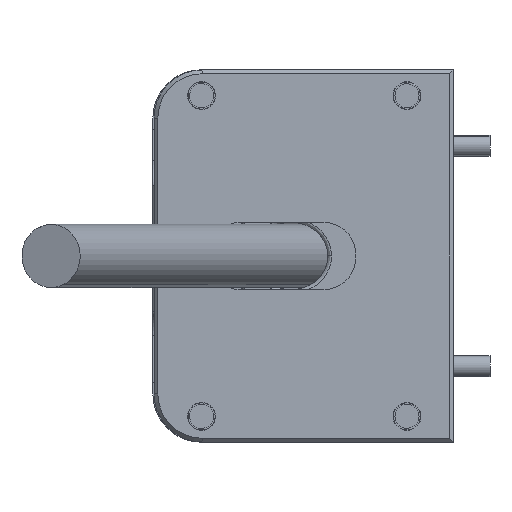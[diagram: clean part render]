
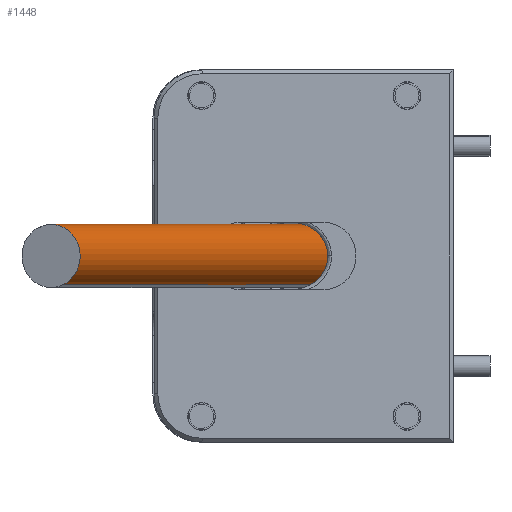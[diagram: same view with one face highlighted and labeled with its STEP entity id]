
A CAD part, front view. The second image highlights one B-rep face of the part: STEP entity #1448.
In plain terms, the highlighted cylindrical face has radius 6.337 mm (diameter 12.675 mm), a partial arc.
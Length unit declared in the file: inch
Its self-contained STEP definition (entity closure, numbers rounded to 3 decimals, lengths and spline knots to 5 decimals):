
#1130 = EDGE_LOOP ( 'NONE', ( #12207, #1578, #16598, #6552 ) ) ;
#1176 = DIRECTION ( 'NONE',  ( 0., -0.391, 0.921 ) ) ;
#1448 = ADVANCED_FACE ( 'NONE', ( #3574 ), #5979, .T. ) ;
#1578 = ORIENTED_EDGE ( 'NONE', *, *, #5318, .F. ) ;
#1741 = CARTESIAN_POINT ( 'NONE',  ( 0., 0.53216, 0.01606 ) ) ;
#1979 = EDGE_CURVE ( 'NONE', #3781, #10217, #16738, .T. ) ;
#2072 = AXIS2_PLACEMENT_3D ( 'NONE', #12040, #2748, #16097 ) ;
#2278 = VECTOR ( 'NONE', #13060, 39.37008 ) ;
#2625 = CIRCLE ( 'NONE', #5432, 0.2495 ) ;
#2748 = DIRECTION ( 'NONE',  ( 0., 0.391, -0.921 ) ) ;
#3127 = EDGE_CURVE ( 'NONE', #15857, #10217, #11789, .T. ) ;
#3454 = CARTESIAN_POINT ( 'NONE',  ( 0., 3.40166, -5.46697 ) ) ;
#3558 = CARTESIAN_POINT ( 'NONE',  ( 0., 0.99149, 0.21103 ) ) ;
#3574 = FACE_OUTER_BOUND ( 'NONE', #1130, .T. ) ;
#3781 = VERTEX_POINT ( 'NONE', #1741 ) ;
#4817 = DIRECTION ( 'NONE',  ( 0., -0.391, 0.921 ) ) ;
#5318 = EDGE_CURVE ( 'NONE', #11765, #15857, #2625, .T. ) ;
#5432 = AXIS2_PLACEMENT_3D ( 'NONE', #11483, #8574, #11312 ) ;
#5979 = CYLINDRICAL_SURFACE ( 'NONE', #14786, 0.2495 ) ;
#6552 = ORIENTED_EDGE ( 'NONE', *, *, #1979, .T. ) ;
#7661 = CARTESIAN_POINT ( 'NONE',  ( 0., 1.47148, -2.19684 ) ) ;
#8086 = CARTESIAN_POINT ( 'NONE',  ( 0., 1.93081, -2.00186 ) ) ;
#8574 = DIRECTION ( 'NONE',  ( 0., 0.391, -0.921 ) ) ;
#8626 = DIRECTION ( 'NONE',  ( 0., -0.921, -0.391 ) ) ;
#10217 = VERTEX_POINT ( 'NONE', #3558 ) ;
#10309 = CARTESIAN_POINT ( 'NONE',  ( 0., 1.70115, -2.09935 ) ) ;
#10741 = CARTESIAN_POINT ( 'NONE',  ( 0., 2.94233, -5.66194 ) ) ;
#11312 = DIRECTION ( 'NONE',  ( 0., 0.921, 0.391 ) ) ;
#11483 = CARTESIAN_POINT ( 'NONE',  ( 0., 3.17199, -5.56445 ) ) ;
#11765 = VERTEX_POINT ( 'NONE', #10741 ) ;
#11789 = LINE ( 'NONE', #8086, #15283 ) ;
#12040 = CARTESIAN_POINT ( 'NONE',  ( 0., 0.76183, 0.11354 ) ) ;
#12207 = ORIENTED_EDGE ( 'NONE', *, *, #3127, .F. ) ;
#13060 = DIRECTION ( 'NONE',  ( 0., -0.391, 0.921 ) ) ;
#13759 = EDGE_CURVE ( 'NONE', #11765, #3781, #17288, .T. ) ;
#14786 = AXIS2_PLACEMENT_3D ( 'NONE', #10309, #4817, #8626 ) ;
#15283 = VECTOR ( 'NONE', #1176, 39.37008 ) ;
#15857 = VERTEX_POINT ( 'NONE', #3454 ) ;
#16097 = DIRECTION ( 'NONE',  ( 0., -0.921, -0.391 ) ) ;
#16598 = ORIENTED_EDGE ( 'NONE', *, *, #13759, .T. ) ;
#16738 = CIRCLE ( 'NONE', #2072, 0.2495 ) ;
#17288 = LINE ( 'NONE', #7661, #2278 ) ;
